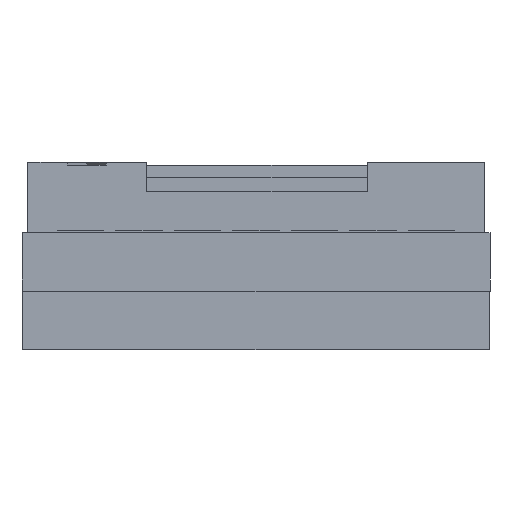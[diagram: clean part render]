
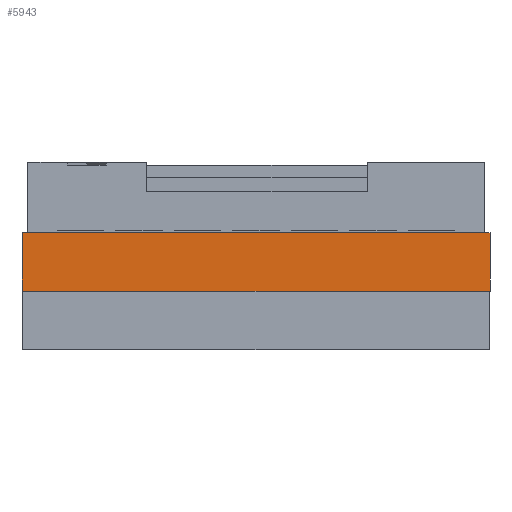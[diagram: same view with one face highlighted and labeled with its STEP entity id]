
A CAD part, front view. The second image highlights one B-rep face of the part: STEP entity #5943.
In plain terms, the highlighted planar face has unit normal (0, -1, 0).
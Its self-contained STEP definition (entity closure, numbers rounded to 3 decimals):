
#218 = LINE ( 'NONE', #6600, #2027 ) ;
#468 = CARTESIAN_POINT ( 'NONE',  ( 254., 245., 0. ) ) ;
#884 = ORIENTED_EDGE ( 'NONE', *, *, #4548, .T. ) ;
#1026 = ORIENTED_EDGE ( 'NONE', *, *, #5180, .F. ) ;
#1386 = CARTESIAN_POINT ( 'NONE',  ( 258., 245., 1. ) ) ;
#1619 = CARTESIAN_POINT ( 'NONE',  ( 250., 245., 1. ) ) ;
#1704 = DIRECTION ( 'NONE',  ( 1., 0., 0. ) ) ;
#1776 = AXIS2_PLACEMENT_3D ( 'NONE', #1619, #6384, #2314 ) ;
#1798 = EDGE_CURVE ( 'NONE', #4922, #5942, #5886, .T. ) ;
#2027 = VECTOR ( 'NONE', #3867, 1000. ) ;
#2267 = VECTOR ( 'NONE', #8198, 1000. ) ;
#2314 = DIRECTION ( 'NONE',  ( 0., 0., -1. ) ) ;
#3013 = LINE ( 'NONE', #5780, #8213 ) ;
#3232 = LINE ( 'NONE', #468, #8220 ) ;
#3482 = CARTESIAN_POINT ( 'NONE',  ( 250., 245., 0.5 ) ) ;
#3609 = CARTESIAN_POINT ( 'NONE',  ( 258., 245., 0. ) ) ;
#3631 = CARTESIAN_POINT ( 'NONE',  ( 250., 245., 1. ) ) ;
#3864 = DIRECTION ( 'NONE',  ( 1., 0., 0. ) ) ;
#3867 = DIRECTION ( 'NONE',  ( 0., 0., -1. ) ) ;
#4548 = EDGE_CURVE ( 'NONE', #4922, #7721, #3232, .T. ) ;
#4922 = VERTEX_POINT ( 'NONE', #6938 ) ;
#5180 = EDGE_CURVE ( 'NONE', #5942, #5797, #3013, .T. ) ;
#5663 = PLANE ( 'NONE',  #1776 ) ;
#5780 = CARTESIAN_POINT ( 'NONE',  ( 254., 245., 1. ) ) ;
#5797 = VERTEX_POINT ( 'NONE', #1386 ) ;
#5886 = LINE ( 'NONE', #3482, #2267 ) ;
#5942 = VERTEX_POINT ( 'NONE', #3631 ) ;
#5943 = ADVANCED_FACE ( 'NONE', ( #8838 ), #5663, .T. ) ;
#6384 = DIRECTION ( 'NONE',  ( 0., -1., 0. ) ) ;
#6600 = CARTESIAN_POINT ( 'NONE',  ( 258., 245., 0.5 ) ) ;
#6782 = EDGE_LOOP ( 'NONE', ( #8598, #884, #8265, #1026 ) ) ;
#6938 = CARTESIAN_POINT ( 'NONE',  ( 250., 245., 0. ) ) ;
#7721 = VERTEX_POINT ( 'NONE', #3609 ) ;
#7960 = EDGE_CURVE ( 'NONE', #5797, #7721, #218, .T. ) ;
#8198 = DIRECTION ( 'NONE',  ( 0., 0., 1. ) ) ;
#8213 = VECTOR ( 'NONE', #1704, 1000. ) ;
#8220 = VECTOR ( 'NONE', #3864, 1000. ) ;
#8265 = ORIENTED_EDGE ( 'NONE', *, *, #7960, .F. ) ;
#8598 = ORIENTED_EDGE ( 'NONE', *, *, #1798, .F. ) ;
#8838 = FACE_OUTER_BOUND ( 'NONE', #6782, .T. ) ;
